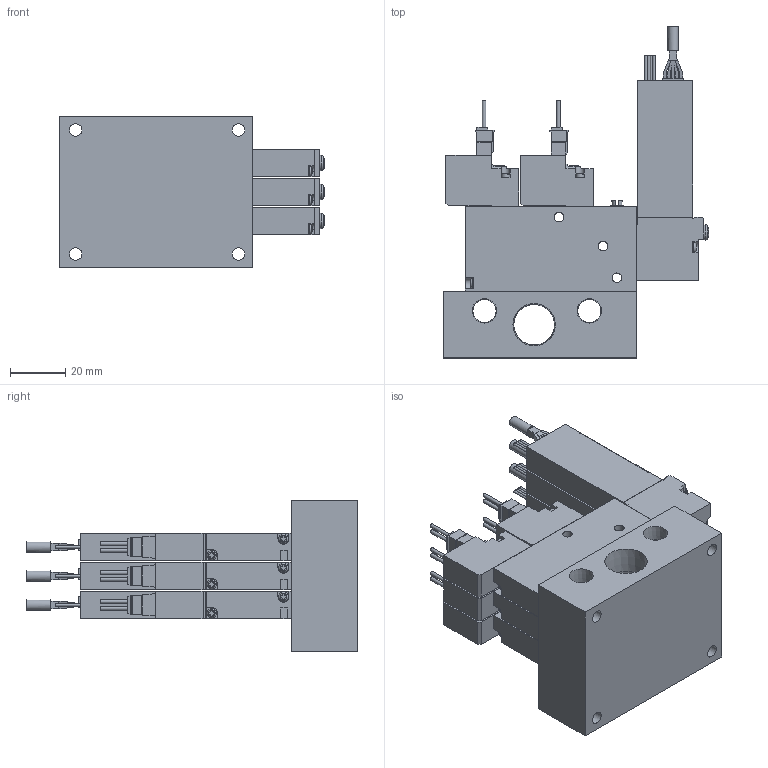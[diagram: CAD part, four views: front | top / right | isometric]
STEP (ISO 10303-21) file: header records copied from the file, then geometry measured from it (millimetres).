
FILE_DESCRIPTION(('STEP AP203'),'1');
FILE_NAME('BMPV42M10.10P.10PS5A(B)303.stp','2025-04-30T01:45:40',(' '),(' '),'Spatial InterOp 3D',' ',' ');
FILE_SCHEMA(('CONFIG_CONTROL_DESIGN'));
Length unit declared in the file: millimetre
Products named in the file (5): BMPV42M10.10P.10PS5A(B)303; VACUUM VALVE FUNCTION MPV42-A; VACUUM SENSOR MPV42-10; UNIT-MPV42; MPV42-M30R-1
Assembly tree (13 placements, depth 2):
  BMPV42M10.10P.10PS5A(B)303
    VACUUM VALVE FUNCTION MPV42-A  x6
    VACUUM SENSOR MPV42-10  x3
    UNIT-MPV42  x3
    MPV42-M30R-1
Bounding box: 96.35 x 120.3 x 55 mm (x, y, z)
Volume: 205048.4 mm3; surface area: 68779.4 mm2
Topology: 13 solids, 13 shells, 1183 faces, 3187 edges, 2114 vertices
Faces by surface type: plane 918, cylinder 217, cone 18, sphere 15, torus 15
Full cylindrical faces by diameter (mm): 0.9 x12, 1.4 x12, 1.8 x3, 2.2 x6, 3 x12, 3.5 x33, 3.8 x3, 4.134 x6, 4.5 x4, 5 x3, 5.5 x3, 8.441 x2, 14.744 x1
Entity records: 9695 total; most frequent: CARTESIAN_POINT 1884, DIRECTION 1539, ORIENTED_EDGE 1490, EDGE_CURVE 745, LINE 551, VECTOR 551, VERTEX_POINT 521, AXIS2_PLACEMENT_3D 494
